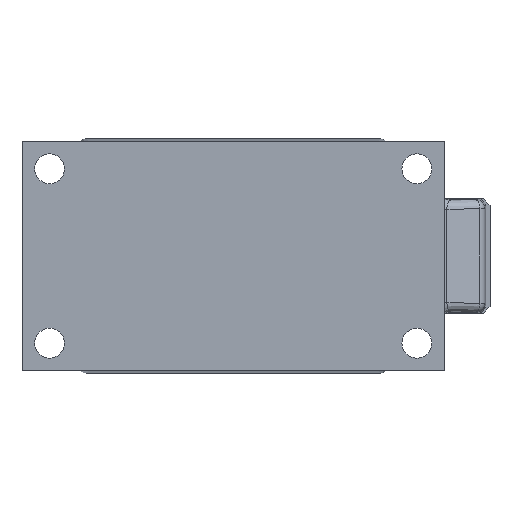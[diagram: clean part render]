
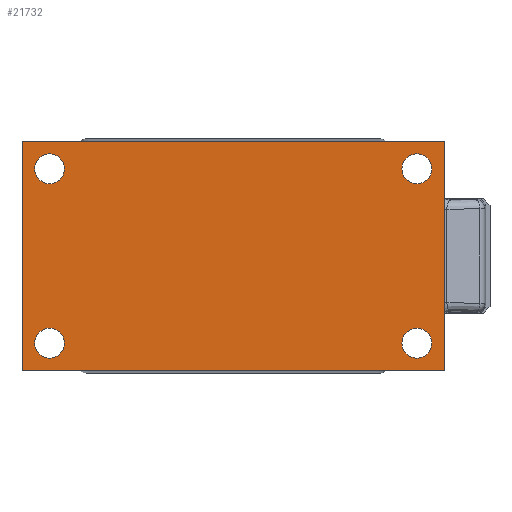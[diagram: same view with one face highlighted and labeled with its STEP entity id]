
A CAD part, front view. The second image highlights one B-rep face of the part: STEP entity #21732.
In plain terms, the highlighted planar face has unit normal (0, -1, 0).
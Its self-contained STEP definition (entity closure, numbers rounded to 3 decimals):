
#271 = CIRCLE ( 'NONE', #9360, 3.25 ) ;
#387 = ORIENTED_EDGE ( 'NONE', *, *, #890, .F. ) ;
#438 = FACE_OUTER_BOUND ( 'NONE', #20537, .T. ) ;
#439 = DIRECTION ( 'NONE',  ( 0., 1., 0. ) ) ;
#782 = VERTEX_POINT ( 'NONE', #10857 ) ;
#890 = EDGE_CURVE ( 'NONE', #16587, #4601, #2825, .T. ) ;
#951 = VERTEX_POINT ( 'NONE', #2013 ) ;
#995 = CARTESIAN_POINT ( 'NONE',  ( -46., -10., 25. ) ) ;
#1447 = DIRECTION ( 'NONE',  ( 1., 0., 0. ) ) ;
#1507 = CARTESIAN_POINT ( 'NONE',  ( -46., -10., -25. ) ) ;
#1577 = ORIENTED_EDGE ( 'NONE', *, *, #15636, .T. ) ;
#1703 = VERTEX_POINT ( 'NONE', #13129 ) ;
#1962 = EDGE_CURVE ( 'NONE', #951, #2534, #12210, .T. ) ;
#2013 = CARTESIAN_POINT ( 'NONE',  ( 40., -10., -15.75 ) ) ;
#2053 = CIRCLE ( 'NONE', #7524, 3.25 ) ;
#2246 = DIRECTION ( 'NONE',  ( 0., 0., -1. ) ) ;
#2534 = VERTEX_POINT ( 'NONE', #4569 ) ;
#2731 = EDGE_LOOP ( 'NONE', ( #9626, #7577 ) ) ;
#2825 = LINE ( 'NONE', #5490, #5497 ) ;
#3528 = DIRECTION ( 'NONE',  ( 0., 1., 0. ) ) ;
#3687 = ORIENTED_EDGE ( 'NONE', *, *, #19457, .T. ) ;
#3725 = CARTESIAN_POINT ( 'NONE',  ( 46., -10., -25. ) ) ;
#3833 = EDGE_CURVE ( 'NONE', #4670, #10861, #12986, .T. ) ;
#3957 = CARTESIAN_POINT ( 'NONE',  ( 46., -10., -25. ) ) ;
#4162 = CIRCLE ( 'NONE', #5870, 3.25 ) ;
#4274 = FACE_BOUND ( 'NONE', #9248, .T. ) ;
#4569 = CARTESIAN_POINT ( 'NONE',  ( 40., -10., -22.25 ) ) ;
#4601 = VERTEX_POINT ( 'NONE', #22275 ) ;
#4670 = VERTEX_POINT ( 'NONE', #3957 ) ;
#4775 = DIRECTION ( 'NONE',  ( 0., 1., 0. ) ) ;
#4896 = DIRECTION ( 'NONE',  ( 0., 0., 1. ) ) ;
#5490 = CARTESIAN_POINT ( 'NONE',  ( 46., -10., 25. ) ) ;
#5497 = VECTOR ( 'NONE', #1447, 1000. ) ;
#5631 = AXIS2_PLACEMENT_3D ( 'NONE', #16272, #24046, #18166 ) ;
#5669 = DIRECTION ( 'NONE',  ( 0., 1., 0. ) ) ;
#5870 = AXIS2_PLACEMENT_3D ( 'NONE', #20541, #3528, #9423 ) ;
#5952 = CARTESIAN_POINT ( 'NONE',  ( -40., -10., 22.25 ) ) ;
#7288 = VERTEX_POINT ( 'NONE', #9926 ) ;
#7524 = AXIS2_PLACEMENT_3D ( 'NONE', #18632, #5669, #18792 ) ;
#7577 = ORIENTED_EDGE ( 'NONE', *, *, #14937, .T. ) ;
#7808 = DIRECTION ( 'NONE',  ( 0., 1., 0. ) ) ;
#8181 = VERTEX_POINT ( 'NONE', #5952 ) ;
#8388 = FACE_BOUND ( 'NONE', #19101, .T. ) ;
#8481 = DIRECTION ( 'NONE',  ( 0., 0., -1. ) ) ;
#8612 = CARTESIAN_POINT ( 'NONE',  ( 40., -10., -19. ) ) ;
#8752 = ORIENTED_EDGE ( 'NONE', *, *, #11919, .T. ) ;
#8948 = EDGE_CURVE ( 'NONE', #4601, #4670, #14028, .T. ) ;
#9102 = VERTEX_POINT ( 'NONE', #23496 ) ;
#9248 = EDGE_LOOP ( 'NONE', ( #14145, #1577 ) ) ;
#9360 = AXIS2_PLACEMENT_3D ( 'NONE', #19218, #7808, #22946 ) ;
#9401 = VECTOR ( 'NONE', #13453, 1000. ) ;
#9423 = DIRECTION ( 'NONE',  ( 0., 0., -1. ) ) ;
#9501 = CARTESIAN_POINT ( 'NONE',  ( -46., -10., 25. ) ) ;
#9582 = VERTEX_POINT ( 'NONE', #23224 ) ;
#9626 = ORIENTED_EDGE ( 'NONE', *, *, #1962, .T. ) ;
#9706 = CARTESIAN_POINT ( 'NONE',  ( -40., -10., 19. ) ) ;
#9745 = ORIENTED_EDGE ( 'NONE', *, *, #10211, .T. ) ;
#9926 = CARTESIAN_POINT ( 'NONE',  ( -40., -10., 15.75 ) ) ;
#10024 = CARTESIAN_POINT ( 'NONE',  ( 46., -10., 25. ) ) ;
#10192 = ORIENTED_EDGE ( 'NONE', *, *, #22649, .F. ) ;
#10211 = EDGE_CURVE ( 'NONE', #8181, #7288, #12066, .T. ) ;
#10637 = AXIS2_PLACEMENT_3D ( 'NONE', #16149, #4775, #8481 ) ;
#10670 = DIRECTION ( 'NONE',  ( 0., 0., 1. ) ) ;
#10857 = CARTESIAN_POINT ( 'NONE',  ( 40., -10., 15.75 ) ) ;
#10861 = VERTEX_POINT ( 'NONE', #1507 ) ;
#11919 = EDGE_CURVE ( 'NONE', #1703, #9582, #2053, .T. ) ;
#12066 = CIRCLE ( 'NONE', #10637, 3.25 ) ;
#12210 = CIRCLE ( 'NONE', #12291, 3.25 ) ;
#12291 = AXIS2_PLACEMENT_3D ( 'NONE', #8612, #12501, #18355 ) ;
#12501 = DIRECTION ( 'NONE',  ( 0., 1., 0. ) ) ;
#12768 = VECTOR ( 'NONE', #23256, 1000. ) ;
#12820 = AXIS2_PLACEMENT_3D ( 'NONE', #23739, #16434, #4896 ) ;
#12986 = LINE ( 'NONE', #3725, #9401 ) ;
#13121 = EDGE_LOOP ( 'NONE', ( #17075, #8752 ) ) ;
#13129 = CARTESIAN_POINT ( 'NONE',  ( -40., -10., -22.25 ) ) ;
#13396 = AXIS2_PLACEMENT_3D ( 'NONE', #22030, #23989, #10670 ) ;
#13426 = DIRECTION ( 'NONE',  ( 0., 0., 1. ) ) ;
#13453 = DIRECTION ( 'NONE',  ( -1., 0., 0. ) ) ;
#13708 = VECTOR ( 'NONE', #13426, 1000. ) ;
#14028 = LINE ( 'NONE', #10024, #12768 ) ;
#14137 = CIRCLE ( 'NONE', #5631, 3.25 ) ;
#14145 = ORIENTED_EDGE ( 'NONE', *, *, #18160, .T. ) ;
#14937 = EDGE_CURVE ( 'NONE', #2534, #951, #4162, .T. ) ;
#15636 = EDGE_CURVE ( 'NONE', #782, #9102, #271, .T. ) ;
#16149 = CARTESIAN_POINT ( 'NONE',  ( -40., -10., 19. ) ) ;
#16272 = CARTESIAN_POINT ( 'NONE',  ( 40., -10., 19. ) ) ;
#16293 = PLANE ( 'NONE',  #13396 ) ;
#16434 = DIRECTION ( 'NONE',  ( 0., 1., 0. ) ) ;
#16587 = VERTEX_POINT ( 'NONE', #995 ) ;
#16672 = AXIS2_PLACEMENT_3D ( 'NONE', #9706, #439, #2246 ) ;
#17075 = ORIENTED_EDGE ( 'NONE', *, *, #19609, .T. ) ;
#18160 = EDGE_CURVE ( 'NONE', #9102, #782, #14137, .T. ) ;
#18166 = DIRECTION ( 'NONE',  ( 0., 0., 1. ) ) ;
#18355 = DIRECTION ( 'NONE',  ( 0., 0., -1. ) ) ;
#18525 = FACE_BOUND ( 'NONE', #13121, .T. ) ;
#18632 = CARTESIAN_POINT ( 'NONE',  ( -40., -10., -19. ) ) ;
#18792 = DIRECTION ( 'NONE',  ( 0., 0., 1. ) ) ;
#19101 = EDGE_LOOP ( 'NONE', ( #9745, #3687 ) ) ;
#19132 = FACE_BOUND ( 'NONE', #2731, .T. ) ;
#19218 = CARTESIAN_POINT ( 'NONE',  ( 40., -10., 19. ) ) ;
#19457 = EDGE_CURVE ( 'NONE', #7288, #8181, #23425, .T. ) ;
#19609 = EDGE_CURVE ( 'NONE', #9582, #1703, #20220, .T. ) ;
#20220 = CIRCLE ( 'NONE', #12820, 3.25 ) ;
#20537 = EDGE_LOOP ( 'NONE', ( #10192, #22093, #21198, #387 ) ) ;
#20541 = CARTESIAN_POINT ( 'NONE',  ( 40., -10., -19. ) ) ;
#21198 = ORIENTED_EDGE ( 'NONE', *, *, #8948, .F. ) ;
#21732 = ADVANCED_FACE ( 'NONE', ( #8388, #4274, #19132, #18525, #438 ), #16293, .F. ) ;
#22030 = CARTESIAN_POINT ( 'NONE',  ( 0., -10., 0. ) ) ;
#22093 = ORIENTED_EDGE ( 'NONE', *, *, #3833, .F. ) ;
#22275 = CARTESIAN_POINT ( 'NONE',  ( 46., -10., 25. ) ) ;
#22649 = EDGE_CURVE ( 'NONE', #10861, #16587, #23126, .T. ) ;
#22946 = DIRECTION ( 'NONE',  ( 0., 0., 1. ) ) ;
#23126 = LINE ( 'NONE', #9501, #13708 ) ;
#23224 = CARTESIAN_POINT ( 'NONE',  ( -40., -10., -15.75 ) ) ;
#23256 = DIRECTION ( 'NONE',  ( 0., 0., -1. ) ) ;
#23425 = CIRCLE ( 'NONE', #16672, 3.25 ) ;
#23496 = CARTESIAN_POINT ( 'NONE',  ( 40., -10., 22.25 ) ) ;
#23739 = CARTESIAN_POINT ( 'NONE',  ( -40., -10., -19. ) ) ;
#23989 = DIRECTION ( 'NONE',  ( 0., 1., 0. ) ) ;
#24046 = DIRECTION ( 'NONE',  ( 0., 1., 0. ) ) ;
